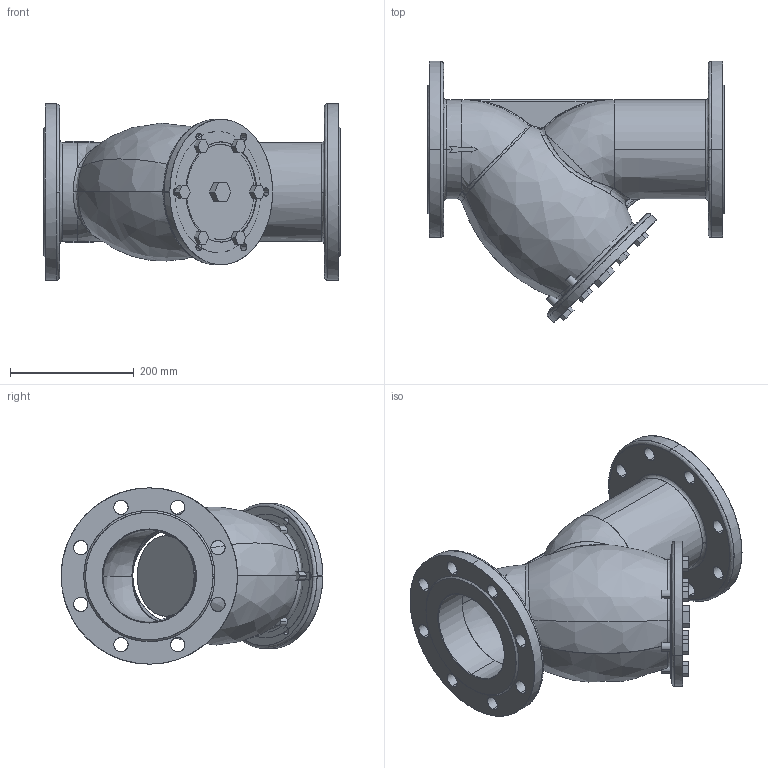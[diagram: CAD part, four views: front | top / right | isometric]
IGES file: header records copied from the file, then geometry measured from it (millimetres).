
Start section: SolidWorks IGES file using analytic representation for surfaces
Global section: file name: C:\Users\Administrator\Desktop\temp\F3240-DN150.IGS; native system: SolidWorks 2015; preprocessor: SolidWorks 2015; author: Administrator; date: 170423.151102; units: millimetre
Bounding box: 480 x 422.85 x 285 mm (x, y, z)
Surface area: 1121054.7 mm2 (no closed solid volume)
Topology: 0 solids, 0 shells, 362 faces, 6967 edges, 6953 vertices
Faces by surface type: bspline 229, revolution 133
